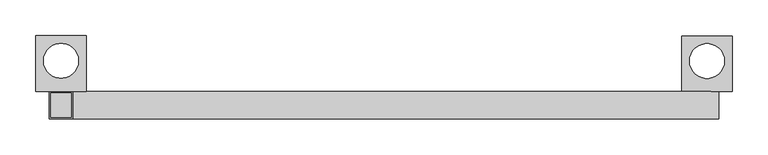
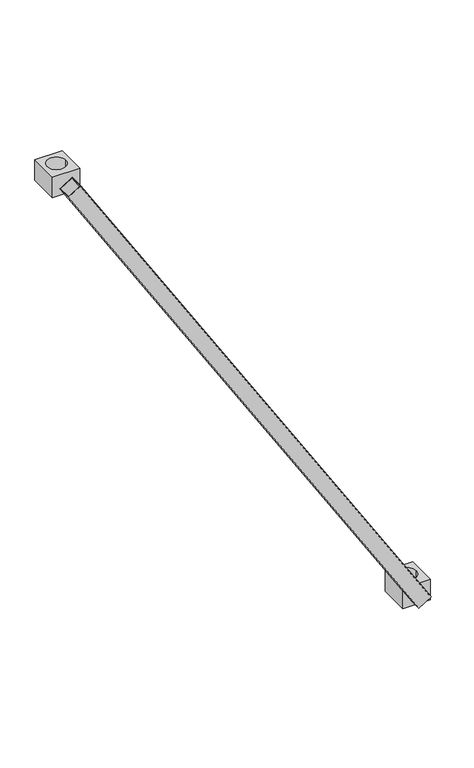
"""IFC4 building model written with IfcOpenShell, lengths in millimetres: proxy geometry, AK_アルバトロスAK伸縮斜材 : H1800×L0900."""

from ifc_helpers import new_model, si_unit, point, frame, frame_2d, origin, place, context, project, spatial, polyline, circle_curve, trimmed, segment, composite_curve, outline, extrude, source, transform, mapped, element, save


def generic_models_4baf35b3(model_context):
    return source(origin(), model_context, "Body", "SweptSolid", [
        extrude(outline(polyline([(0.0, 0.0), (0.0, -38.0), (-38.0000001, -38.0), (-38.0000001, 0.0), (0.0, 0.0)]), holes=[polyline([(-2.0000001, -2.0), (-36.0, -2.0), (-36.0, -36.0), (-2.0000001, -36.0), (-2.0000001, -2.0)])]), frame((16.0816396, 19.0, 10.1183432), z_axis=(-0.5325443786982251, 0.0, 0.8464020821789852), x_axis=(0.8464020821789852, 0.0, 0.5325443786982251)), (0.0, 0.0, 1.0), 1690.0),
        extrude(outline(polyline([(35.0, 96.8842695), (35.0, 19.0), (-35.0, 19.0), (-35.0, 96.8842695), (35.0, 96.8842695)]), holes=[composite_curve([segment(trimmed(circle_curve(frame_2d((0.0, 61.8842695)), 24.3), [point((24.3, 61.8842695))], [point((-24.3, 61.8842695))], True, "CARTESIAN"), True, "CONTINUOUS"), segment(trimmed(circle_curve(frame_2d((0.0, 61.8842695)), 24.3), [point((-24.3, 61.8842695))], [point((24.3, 61.8842695))], True, "CARTESIAN"), True, "CONTINUOUS")], self_intersect=False)]), frame((0.0, 0.0, -27.7559086), z_axis=(0.0, 0.0, 1.0), x_axis=(1.0, 0.0, 0.0)), (0.0, 0.0, 1.0), 55.5118171),
        extrude(outline(polyline([(-865.0, 19.0), (-935.0, 19.0), (-935.0, 96.8842695), (-865.0, 96.8842695), (-865.0, 19.0)]), holes=[composite_curve([segment(trimmed(circle_curve(frame_2d((-900.0, 61.8842695)), 24.3), [point((-875.7, 61.8842695))], [point((-924.3, 61.8842695))], True, "CARTESIAN"), True, "CONTINUOUS"), segment(trimmed(circle_curve(frame_2d((-900.0, 61.8842695)), 24.3), [point((-924.3, 61.8842695))], [point((-875.7, 61.8842695))], True, "CARTESIAN"), True, "CONTINUOUS")], self_intersect=False)]), frame((0.0, 0.0, 1402.6636103), z_axis=(0.0, 0.0, 1.0), x_axis=(1.0, 0.0, 0.0)), (0.0, 0.0, 1.0), 55.5118171),
    ])


if __name__ == "__main__":
    model = new_model("IFC4")
    model_context = context("Model", 3, world=origin())
    ifc_project = project(units=[si_unit("LENGTHUNIT", "METRE", prefix="MILLI")], contexts=[model_context])
    site = spatial("IfcSite", under=ifc_project)
    building = spatial("IfcBuilding", under=site)
    placement = place(None, origin())
    generic_models_shape = generic_models_4baf35b3(model_context)
    element("IfcBuildingElementProxy", 1, Name="AK_アルバトロスAK伸縮斜材 : H1800×L0900", ObjectType="AK_アルバトロスAK伸縮斜材 : H1800×L0900", at=placement, inside=building, context=model_context, shape_type="MappedRepresentation", body=[
        mapped(generic_models_shape, transform((0.0, 0.0, 0.0), x_axis=(1.0, 0.0, 0.0), y_axis=(0.0, 1.0, 0.0), z_axis=(0.0, 0.0, 1.0))),
    ])
    save(model, "model.ifc")
